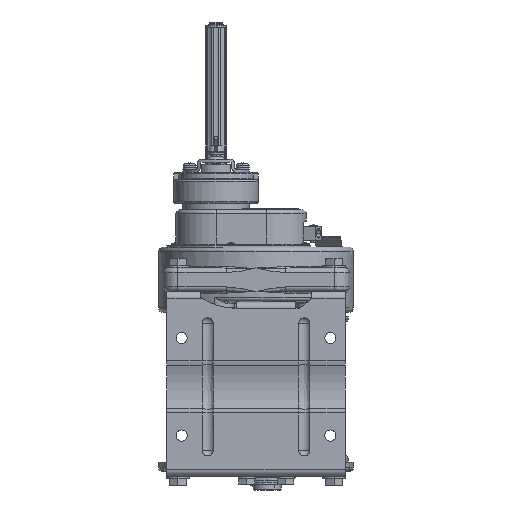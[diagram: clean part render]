
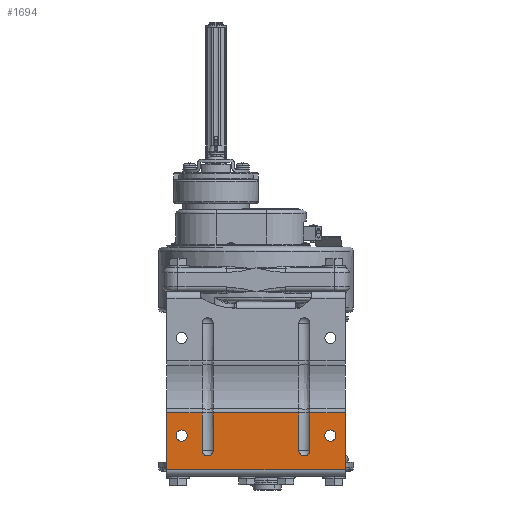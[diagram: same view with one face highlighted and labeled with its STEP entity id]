
A CAD part, front view. The second image highlights one B-rep face of the part: STEP entity #1694.
In plain terms, the highlighted planar face has unit normal (0, -1, 0).
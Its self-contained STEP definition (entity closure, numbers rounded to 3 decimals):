
#1694=ADVANCED_FACE('',(#19091,#19092,#19093),#19090,.T.);
#19090=PLANE('',#45930);
#19091=FACE_OUTER_BOUND('',#45931,.T.);
#19092=FACE_BOUND('',#45932,.T.);
#19093=FACE_BOUND('',#45933,.T.);
#45927=CARTESIAN_POINT('',(11.,-36.383,-223.2));
#45928=DIRECTION('',(0.,-1.,0.));
#45929=DIRECTION('',(0.,0.,1.));
#45930=AXIS2_PLACEMENT_3D('',#45927,#45928,#45929);
#45931=EDGE_LOOP('',(#65286,#65287,#65288,#65289,#65290,#65291,#65292,#65293,#65294,#65295,#65296,#65297));
#45932=EDGE_LOOP('',(#65298,#65299));
#45933=EDGE_LOOP('',(#65300,#65301));
#65286=ORIENTED_EDGE('',*,*,#77088,.T.);
#65287=ORIENTED_EDGE('',*,*,#77089,.F.);
#65288=ORIENTED_EDGE('',*,*,#77086,.T.);
#65289=ORIENTED_EDGE('',*,*,#77090,.T.);
#65290=ORIENTED_EDGE('',*,*,#77091,.T.);
#65291=ORIENTED_EDGE('',*,*,#77092,.F.);
#65292=ORIENTED_EDGE('',*,*,#77093,.F.);
#65293=ORIENTED_EDGE('',*,*,#77094,.T.);
#65294=ORIENTED_EDGE('',*,*,#77095,.T.);
#65295=ORIENTED_EDGE('',*,*,#77096,.F.);
#65296=ORIENTED_EDGE('',*,*,#77097,.F.);
#65297=ORIENTED_EDGE('',*,*,#77098,.T.);
#65298=ORIENTED_EDGE('',*,*,#77099,.F.);
#65299=ORIENTED_EDGE('',*,*,#77100,.F.);
#65300=ORIENTED_EDGE('',*,*,#77101,.F.);
#65301=ORIENTED_EDGE('',*,*,#77102,.F.);
#77086=EDGE_CURVE('',#112477,#112469,#112478,.T.);
#77088=EDGE_CURVE('',#112490,#112491,#112492,.T.);
#77089=EDGE_CURVE('',#112477,#112491,#112498,.T.);
#77090=EDGE_CURVE('',#112469,#112504,#112505,.T.);
#77091=EDGE_CURVE('',#112504,#112511,#112512,.T.);
#77092=EDGE_CURVE('',#112518,#112511,#112519,.T.);
#77093=EDGE_CURVE('',#112525,#112518,#112526,.T.);
#77094=EDGE_CURVE('',#112525,#112532,#112533,.T.);
#77095=EDGE_CURVE('',#112532,#112539,#112540,.T.);
#77096=EDGE_CURVE('',#112546,#112539,#112547,.T.);
#77097=EDGE_CURVE('',#112553,#112546,#112554,.T.);
#77098=EDGE_CURVE('',#112553,#112490,#112560,.T.);
#77099=EDGE_CURVE('',#112566,#112567,#112568,.T.);
#77100=EDGE_CURVE('',#112567,#112566,#112574,.T.);
#77101=EDGE_CURVE('',#112580,#112581,#112582,.T.);
#77102=EDGE_CURVE('',#112581,#112580,#112588,.T.);
#112469=VERTEX_POINT('',#153508);
#112477=VERTEX_POINT('',#153514);
#112478=CIRCLE('',#153518,6.);
#112490=VERTEX_POINT('',#153523);
#112491=VERTEX_POINT('',#153524);
#112492=LINE('',#153525,#153526);
#112498=LINE('',#153528,#153529);
#112504=VERTEX_POINT('',#153531);
#112505=LINE('',#153532,#153533);
#112511=VERTEX_POINT('',#153535);
#112512=LINE('',#153536,#153537);
#112518=VERTEX_POINT('',#153539);
#112519=LINE('',#153540,#153541);
#112525=VERTEX_POINT('',#153543);
#112526=CIRCLE('',#153547,6.);
#112532=VERTEX_POINT('',#153548);
#112533=LINE('',#153549,#153550);
#112539=VERTEX_POINT('',#153552);
#112540=LINE('',#153553,#153554);
#112546=VERTEX_POINT('',#153556);
#112547=LINE('',#153557,#153558);
#112553=VERTEX_POINT('',#153560);
#112554=LINE('',#153561,#153562);
#112560=LINE('',#153564,#153565);
#112566=VERTEX_POINT('',#153567);
#112567=VERTEX_POINT('',#153568);
#112568=CIRCLE('',#153572,6.);
#112574=CIRCLE('',#153576,6.);
#112580=VERTEX_POINT('',#153577);
#112581=VERTEX_POINT('',#153578);
#112582=CIRCLE('',#153582,6.);
#112588=CIRCLE('',#153586,6.);
#153508=CARTESIAN_POINT('',(-49.,-36.383,-196.302));
#153514=CARTESIAN_POINT('',(-37.,-36.383,-196.302));
#153515=CARTESIAN_POINT('',(-43.,-36.383,-196.302));
#153516=DIRECTION('',(0.,1.,0.));
#153517=DIRECTION('',(1.,0.,0.));
#153518=AXIS2_PLACEMENT_3D('',#153515,#153516,#153517);
#153523=CARTESIAN_POINT('',(1.,-36.383,-156.096));
#153524=CARTESIAN_POINT('',(-37.,-36.383,-156.096));
#153525=CARTESIAN_POINT('',(1.,-36.383,-156.096));
#153526=VECTOR('',#153527,38.);
#153527=DIRECTION('',(-1.,0.,0.));
#153528=CARTESIAN_POINT('',(-37.,-36.383,-196.302));
#153529=VECTOR('',#153530,40.206);
#153530=DIRECTION('',(0.,0.,1.));
#153531=CARTESIAN_POINT('',(-49.,-36.383,-156.096));
#153532=CARTESIAN_POINT('',(-49.,-36.383,-196.302));
#153533=VECTOR('',#153534,40.206);
#153534=DIRECTION('',(0.,0.,1.));
#153535=CARTESIAN_POINT('',(-141.,-36.383,-156.096));
#153536=CARTESIAN_POINT('',(-49.,-36.383,-156.096));
#153537=VECTOR('',#153538,92.);
#153538=DIRECTION('',(-1.,0.,0.));
#153539=CARTESIAN_POINT('',(-141.,-36.383,-196.302));
#153540=CARTESIAN_POINT('',(-141.,-36.383,-196.302));
#153541=VECTOR('',#153542,40.206);
#153542=DIRECTION('',(0.,0.,1.));
#153543=CARTESIAN_POINT('',(-153.,-36.383,-196.302));
#153544=CARTESIAN_POINT('',(-147.,-36.383,-196.302));
#153545=DIRECTION('',(0.,-1.,0.));
#153546=DIRECTION('',(1.,0.,0.));
#153547=AXIS2_PLACEMENT_3D('',#153544,#153545,#153546);
#153548=CARTESIAN_POINT('',(-153.,-36.383,-156.096));
#153549=CARTESIAN_POINT('',(-153.,-36.383,-196.302));
#153550=VECTOR('',#153551,40.206);
#153551=DIRECTION('',(0.,0.,1.));
#153552=CARTESIAN_POINT('',(-191.,-36.383,-156.096));
#153553=CARTESIAN_POINT('',(-153.,-36.383,-156.096));
#153554=VECTOR('',#153555,38.);
#153555=DIRECTION('',(-1.,0.,0.));
#153556=CARTESIAN_POINT('',(-191.,-36.383,-217.1));
#153557=CARTESIAN_POINT('',(-191.,-36.383,-217.1));
#153558=VECTOR('',#153559,61.004);
#153559=DIRECTION('',(0.,0.,1.));
#153560=CARTESIAN_POINT('',(1.,-36.383,-217.1));
#153561=CARTESIAN_POINT('',(1.,-36.383,-217.1));
#153562=VECTOR('',#153563,192.);
#153563=DIRECTION('',(-1.,0.,0.));
#153564=CARTESIAN_POINT('',(1.,-36.383,-217.1));
#153565=VECTOR('',#153566,61.004);
#153566=DIRECTION('',(0.,0.,1.));
#153567=CARTESIAN_POINT('',(-15.,-36.383,-186.4));
#153568=CARTESIAN_POINT('',(-15.,-36.383,-174.4));
#153569=CARTESIAN_POINT('',(-15.,-36.383,-180.4));
#153570=DIRECTION('',(0.,-1.,0.));
#153571=DIRECTION('',(0.,0.,1.));
#153572=AXIS2_PLACEMENT_3D('',#153569,#153570,#153571);
#153573=CARTESIAN_POINT('',(-15.,-36.383,-180.4));
#153574=DIRECTION('',(0.,-1.,0.));
#153575=DIRECTION('',(0.,0.,1.));
#153576=AXIS2_PLACEMENT_3D('',#153573,#153574,#153575);
#153577=CARTESIAN_POINT('',(-175.,-36.383,-186.4));
#153578=CARTESIAN_POINT('',(-175.,-36.383,-174.4));
#153579=CARTESIAN_POINT('',(-175.,-36.383,-180.4));
#153580=DIRECTION('',(0.,-1.,0.));
#153581=DIRECTION('',(0.,0.,1.));
#153582=AXIS2_PLACEMENT_3D('',#153579,#153580,#153581);
#153583=CARTESIAN_POINT('',(-175.,-36.383,-180.4));
#153584=DIRECTION('',(0.,-1.,0.));
#153585=DIRECTION('',(0.,0.,1.));
#153586=AXIS2_PLACEMENT_3D('',#153583,#153584,#153585);
